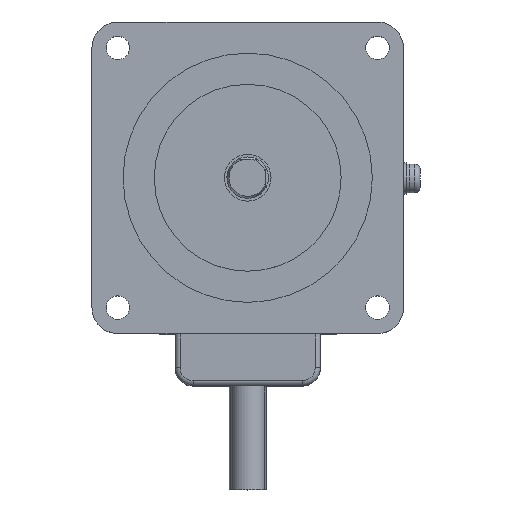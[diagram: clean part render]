
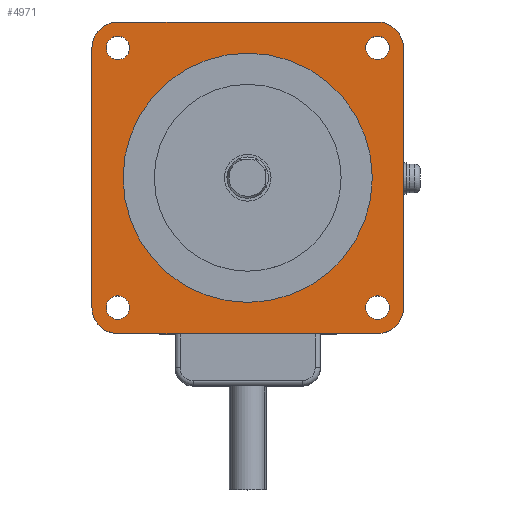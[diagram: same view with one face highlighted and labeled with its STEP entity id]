
A CAD part, top view. The second image highlights one B-rep face of the part: STEP entity #4971.
In plain terms, the highlighted planar face has unit normal (0, 0, 1).
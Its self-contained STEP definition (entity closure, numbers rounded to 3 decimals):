
#42 = EDGE_CURVE ( 'NONE', #2804, #371, #1054, .T. ) ;
#58 = DIRECTION ( 'NONE',  ( 0., 0., 1. ) ) ;
#163 = CARTESIAN_POINT ( 'NONE',  ( -25., -30., 10. ) ) ;
#309 = CARTESIAN_POINT ( 'NONE',  ( 25., 25., 10. ) ) ;
#371 = VERTEX_POINT ( 'NONE', #3926 ) ;
#445 = ORIENTED_EDGE ( 'NONE', *, *, #1990, .T. ) ;
#614 = CARTESIAN_POINT ( 'NONE',  ( -30., -25., 10. ) ) ;
#625 = AXIS2_PLACEMENT_3D ( 'NONE', #5049, #4097, #2218 ) ;
#649 = VECTOR ( 'NONE', #2182, 1000. ) ;
#734 = DIRECTION ( 'NONE',  ( 1., 0., 0. ) ) ;
#778 = VERTEX_POINT ( 'NONE', #4857 ) ;
#933 = FACE_BOUND ( 'NONE', #3228, .T. ) ;
#961 = DIRECTION ( 'NONE',  ( 1., 0., 0. ) ) ;
#979 = EDGE_LOOP ( 'NONE', ( #3171 ) ) ;
#980 = CARTESIAN_POINT ( 'NONE',  ( 25., -25., 10. ) ) ;
#1054 = CIRCLE ( 'NONE', #1108, 5. ) ;
#1108 = AXIS2_PLACEMENT_3D ( 'NONE', #3638, #6006, #2289 ) ;
#1167 = CARTESIAN_POINT ( 'NONE',  ( -25., 25., 10. ) ) ;
#1195 = LINE ( 'NONE', #5474, #1327 ) ;
#1215 = DIRECTION ( 'NONE',  ( 0., -1., 0. ) ) ;
#1251 = CARTESIAN_POINT ( 'NONE',  ( 0., 0., 10. ) ) ;
#1310 = VECTOR ( 'NONE', #5612, 1000. ) ;
#1327 = VECTOR ( 'NONE', #1215, 1000. ) ;
#1354 = ORIENTED_EDGE ( 'NONE', *, *, #2584, .T. ) ;
#1375 = AXIS2_PLACEMENT_3D ( 'NONE', #5853, #3570, #4930 ) ;
#1421 = VERTEX_POINT ( 'NONE', #2551 ) ;
#1469 = ORIENTED_EDGE ( 'NONE', *, *, #1618, .F. ) ;
#1531 = LINE ( 'NONE', #5036, #649 ) ;
#1618 = EDGE_CURVE ( 'NONE', #778, #778, #3775, .T. ) ;
#1718 = EDGE_LOOP ( 'NONE', ( #4370 ) ) ;
#1730 = DIRECTION ( 'NONE',  ( 0., 0., 1. ) ) ;
#1733 = PLANE ( 'NONE',  #625 ) ;
#1767 = ORIENTED_EDGE ( 'NONE', *, *, #2455, .T. ) ;
#1852 = CARTESIAN_POINT ( 'NONE',  ( -25., -30., 10. ) ) ;
#1990 = EDGE_CURVE ( 'NONE', #5079, #2146, #1195, .T. ) ;
#2032 = VERTEX_POINT ( 'NONE', #2585 ) ;
#2057 = AXIS2_PLACEMENT_3D ( 'NONE', #3588, #3172, #734 ) ;
#2088 = CARTESIAN_POINT ( 'NONE',  ( -30., 25., 10. ) ) ;
#2146 = VERTEX_POINT ( 'NONE', #614 ) ;
#2182 = DIRECTION ( 'NONE',  ( -1., 0., 0. ) ) ;
#2207 = CIRCLE ( 'NONE', #4522, 5. ) ;
#2213 = DIRECTION ( 'NONE',  ( 1., 0., 0. ) ) ;
#2218 = DIRECTION ( 'NONE',  ( 1., 0., 0. ) ) ;
#2238 = EDGE_CURVE ( 'NONE', #3594, #3594, #2437, .T. ) ;
#2240 = ORIENTED_EDGE ( 'NONE', *, *, #2697, .T. ) ;
#2282 = LINE ( 'NONE', #1852, #1310 ) ;
#2289 = DIRECTION ( 'NONE',  ( 1., 0., 0. ) ) ;
#2331 = DIRECTION ( 'NONE',  ( 1., 0., 0. ) ) ;
#2437 = CIRCLE ( 'NONE', #4646, 2.25 ) ;
#2455 = EDGE_CURVE ( 'NONE', #4369, #2804, #2516, .T. ) ;
#2516 = LINE ( 'NONE', #5773, #4519 ) ;
#2548 = CIRCLE ( 'NONE', #4859, 2.25 ) ;
#2551 = CARTESIAN_POINT ( 'NONE',  ( -25., 30., 10. ) ) ;
#2584 = EDGE_CURVE ( 'NONE', #2146, #4720, #3479, .T. ) ;
#2585 = CARTESIAN_POINT ( 'NONE',  ( 27.25, -25., 10. ) ) ;
#2601 = ORIENTED_EDGE ( 'NONE', *, *, #4933, .T. ) ;
#2690 = CARTESIAN_POINT ( 'NONE',  ( 25., -25., 10. ) ) ;
#2697 = EDGE_CURVE ( 'NONE', #6098, #4369, #5241, .T. ) ;
#2706 = EDGE_LOOP ( 'NONE', ( #3136, #445, #1354, #5250, #2240, #1767, #3230, #2601 ) ) ;
#2804 = VERTEX_POINT ( 'NONE', #3696 ) ;
#2830 = VERTEX_POINT ( 'NONE', #3539 ) ;
#2847 = FACE_BOUND ( 'NONE', #1718, .T. ) ;
#2976 = CARTESIAN_POINT ( 'NONE',  ( -22.75, -25., 10. ) ) ;
#3136 = ORIENTED_EDGE ( 'NONE', *, *, #5085, .T. ) ;
#3137 = CARTESIAN_POINT ( 'NONE',  ( 30., -25., 10. ) ) ;
#3171 = ORIENTED_EDGE ( 'NONE', *, *, #4358, .F. ) ;
#3172 = DIRECTION ( 'NONE',  ( 0., 0., 1. ) ) ;
#3186 = AXIS2_PLACEMENT_3D ( 'NONE', #2690, #5523, #5487 ) ;
#3228 = EDGE_LOOP ( 'NONE', ( #1469 ) ) ;
#3230 = ORIENTED_EDGE ( 'NONE', *, *, #42, .T. ) ;
#3328 = ORIENTED_EDGE ( 'NONE', *, *, #5888, .F. ) ;
#3388 = EDGE_CURVE ( 'NONE', #4720, #6098, #2282, .T. ) ;
#3418 = AXIS2_PLACEMENT_3D ( 'NONE', #309, #4610, #5055 ) ;
#3479 = CIRCLE ( 'NONE', #1375, 5. ) ;
#3493 = EDGE_LOOP ( 'NONE', ( #4238 ) ) ;
#3539 = CARTESIAN_POINT ( 'NONE',  ( 24., 0., 10. ) ) ;
#3570 = DIRECTION ( 'NONE',  ( 0., 0., 1. ) ) ;
#3588 = CARTESIAN_POINT ( 'NONE',  ( -25., 25., 10. ) ) ;
#3594 = VERTEX_POINT ( 'NONE', #2976 ) ;
#3638 = CARTESIAN_POINT ( 'NONE',  ( 25., 25., 10. ) ) ;
#3681 = CIRCLE ( 'NONE', #2057, 2.25 ) ;
#3696 = CARTESIAN_POINT ( 'NONE',  ( 30., 25., 10. ) ) ;
#3775 = CIRCLE ( 'NONE', #3418, 2.25 ) ;
#3858 = CARTESIAN_POINT ( 'NONE',  ( -22.75, 25., 10. ) ) ;
#3926 = CARTESIAN_POINT ( 'NONE',  ( 25., 30., 10. ) ) ;
#4054 = FACE_OUTER_BOUND ( 'NONE', #2706, .T. ) ;
#4097 = DIRECTION ( 'NONE',  ( 0., 0., 1. ) ) ;
#4176 = CARTESIAN_POINT ( 'NONE',  ( -25., -25., 10. ) ) ;
#4238 = ORIENTED_EDGE ( 'NONE', *, *, #5260, .F. ) ;
#4358 = EDGE_CURVE ( 'NONE', #5953, #5953, #3681, .T. ) ;
#4369 = VERTEX_POINT ( 'NONE', #3137 ) ;
#4370 = ORIENTED_EDGE ( 'NONE', *, *, #2238, .F. ) ;
#4519 = VECTOR ( 'NONE', #4827, 1000. ) ;
#4522 = AXIS2_PLACEMENT_3D ( 'NONE', #1167, #4890, #5806 ) ;
#4602 = AXIS2_PLACEMENT_3D ( 'NONE', #1251, #1730, #2213 ) ;
#4610 = DIRECTION ( 'NONE',  ( 0., 0., 1. ) ) ;
#4646 = AXIS2_PLACEMENT_3D ( 'NONE', #4176, #4716, #2331 ) ;
#4716 = DIRECTION ( 'NONE',  ( 0., 0., 1. ) ) ;
#4720 = VERTEX_POINT ( 'NONE', #163 ) ;
#4827 = DIRECTION ( 'NONE',  ( 0., 1., 0. ) ) ;
#4857 = CARTESIAN_POINT ( 'NONE',  ( 27.25, 25., 10. ) ) ;
#4858 = FACE_BOUND ( 'NONE', #979, .T. ) ;
#4859 = AXIS2_PLACEMENT_3D ( 'NONE', #980, #58, #961 ) ;
#4890 = DIRECTION ( 'NONE',  ( 0., 0., 1. ) ) ;
#4930 = DIRECTION ( 'NONE',  ( 1., 0., 0. ) ) ;
#4933 = EDGE_CURVE ( 'NONE', #371, #1421, #1531, .T. ) ;
#4971 = ADVANCED_FACE ( 'NONE', ( #5894, #5290, #933, #4054, #2847, #4858 ), #1733, .T. ) ;
#5036 = CARTESIAN_POINT ( 'NONE',  ( -25., 30., 10. ) ) ;
#5049 = CARTESIAN_POINT ( 'NONE',  ( -25., 25., 10. ) ) ;
#5055 = DIRECTION ( 'NONE',  ( 1., 0., 0. ) ) ;
#5079 = VERTEX_POINT ( 'NONE', #2088 ) ;
#5085 = EDGE_CURVE ( 'NONE', #1421, #5079, #2207, .T. ) ;
#5241 = CIRCLE ( 'NONE', #3186, 5. ) ;
#5250 = ORIENTED_EDGE ( 'NONE', *, *, #3388, .T. ) ;
#5260 = EDGE_CURVE ( 'NONE', #2830, #2830, #6095, .T. ) ;
#5290 = FACE_BOUND ( 'NONE', #6019, .T. ) ;
#5474 = CARTESIAN_POINT ( 'NONE',  ( -30., 25., 10. ) ) ;
#5487 = DIRECTION ( 'NONE',  ( -1., 0., 0. ) ) ;
#5523 = DIRECTION ( 'NONE',  ( 0., 0., 1. ) ) ;
#5612 = DIRECTION ( 'NONE',  ( 1., 0., 0. ) ) ;
#5773 = CARTESIAN_POINT ( 'NONE',  ( 30., 25., 10. ) ) ;
#5806 = DIRECTION ( 'NONE',  ( 1., 0., 0. ) ) ;
#5814 = CARTESIAN_POINT ( 'NONE',  ( 25., -30., 10. ) ) ;
#5853 = CARTESIAN_POINT ( 'NONE',  ( -25., -25., 10. ) ) ;
#5888 = EDGE_CURVE ( 'NONE', #2032, #2032, #2548, .T. ) ;
#5894 = FACE_BOUND ( 'NONE', #3493, .T. ) ;
#5953 = VERTEX_POINT ( 'NONE', #3858 ) ;
#6006 = DIRECTION ( 'NONE',  ( 0., 0., 1. ) ) ;
#6019 = EDGE_LOOP ( 'NONE', ( #3328 ) ) ;
#6095 = CIRCLE ( 'NONE', #4602, 24. ) ;
#6098 = VERTEX_POINT ( 'NONE', #5814 ) ;
